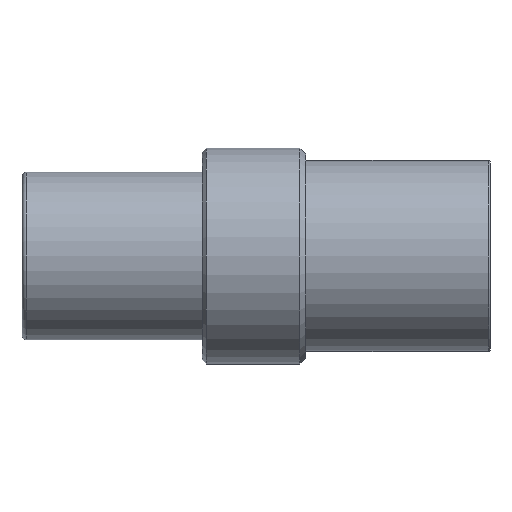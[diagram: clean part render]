
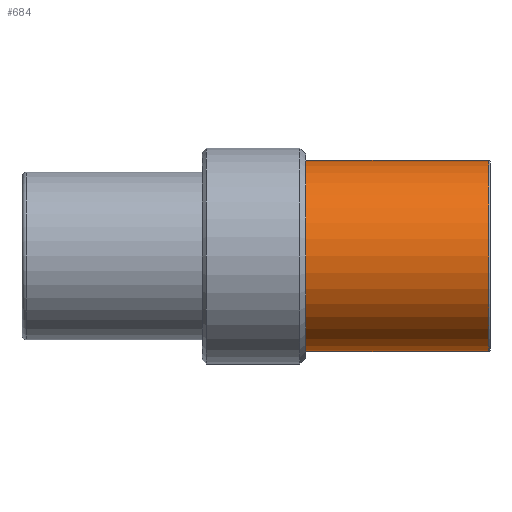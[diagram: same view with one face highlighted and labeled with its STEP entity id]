
A CAD part, left-side view. The second image highlights one B-rep face of the part: STEP entity #684.
In plain terms, the highlighted cylindrical face has radius 8.433 mm (diameter 16.866 mm), a partial arc.
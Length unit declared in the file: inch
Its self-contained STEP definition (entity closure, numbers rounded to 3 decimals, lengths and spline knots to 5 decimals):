
#237 = EDGE_CURVE ( 'NONE', #2804, #2625, #1370, .T. ) ;
#255 = LINE ( 'NONE', #2879, #309 ) ;
#309 = VECTOR ( 'NONE', #470, 39.37008 ) ;
#470 = DIRECTION ( 'NONE',  ( 0., 1., 0. ) ) ;
#576 = EDGE_CURVE ( 'NONE', #1520, #647, #2839, .T. ) ;
#647 = VERTEX_POINT ( 'NONE', #3097 ) ;
#668 = FACE_OUTER_BOUND ( 'NONE', #1848, .T. ) ;
#684 = ADVANCED_FACE ( 'NONE', ( #668 ), #2988, .T. ) ;
#748 = CARTESIAN_POINT ( 'NONE',  ( 0., 0.64, -0.332 ) ) ;
#757 = ORIENTED_EDGE ( 'NONE', *, *, #576, .F. ) ;
#986 = AXIS2_PLACEMENT_3D ( 'NONE', #2885, #2639, #2364 ) ;
#1059 = LINE ( 'NONE', #1864, #2119 ) ;
#1161 = CARTESIAN_POINT ( 'NONE',  ( 0., 0.64, 0.332 ) ) ;
#1218 = CARTESIAN_POINT ( 'NONE',  ( 0., 0.32, 0. ) ) ;
#1326 = AXIS2_PLACEMENT_3D ( 'NONE', #3198, #2105, #2659 ) ;
#1370 = CIRCLE ( 'NONE', #986, 0.332 ) ;
#1438 = ORIENTED_EDGE ( 'NONE', *, *, #2428, .T. ) ;
#1520 = VERTEX_POINT ( 'NONE', #3448 ) ;
#1734 = ORIENTED_EDGE ( 'NONE', *, *, #1869, .F. ) ;
#1740 = DIRECTION ( 'NONE',  ( 0., 1., 0. ) ) ;
#1825 = AXIS2_PLACEMENT_3D ( 'NONE', #1218, #1740, #2797 ) ;
#1848 = EDGE_LOOP ( 'NONE', ( #1734, #757, #1438, #2747 ) ) ;
#1864 = CARTESIAN_POINT ( 'NONE',  ( 0., 0.32, 0.332 ) ) ;
#1869 = EDGE_CURVE ( 'NONE', #647, #2804, #255, .T. ) ;
#2105 = DIRECTION ( 'NONE',  ( 0., -1., 0. ) ) ;
#2119 = VECTOR ( 'NONE', #2937, 39.37008 ) ;
#2364 = DIRECTION ( 'NONE',  ( 1., 0., 0. ) ) ;
#2428 = EDGE_CURVE ( 'NONE', #1520, #2625, #1059, .T. ) ;
#2625 = VERTEX_POINT ( 'NONE', #1161 ) ;
#2639 = DIRECTION ( 'NONE',  ( 0., 1., 0. ) ) ;
#2659 = DIRECTION ( 'NONE',  ( 0., 0., -1. ) ) ;
#2747 = ORIENTED_EDGE ( 'NONE', *, *, #237, .F. ) ;
#2797 = DIRECTION ( 'NONE',  ( 0., 0., 1. ) ) ;
#2804 = VERTEX_POINT ( 'NONE', #748 ) ;
#2839 = CIRCLE ( 'NONE', #1326, 0.332 ) ;
#2879 = CARTESIAN_POINT ( 'NONE',  ( 0., 0.32, -0.332 ) ) ;
#2885 = CARTESIAN_POINT ( 'NONE',  ( 0., 0.64, 0. ) ) ;
#2937 = DIRECTION ( 'NONE',  ( 0., 1., 0. ) ) ;
#2988 = CYLINDRICAL_SURFACE ( 'NONE', #1825, 0.332 ) ;
#3097 = CARTESIAN_POINT ( 'NONE',  ( 0., 0.005, -0.332 ) ) ;
#3198 = CARTESIAN_POINT ( 'NONE',  ( 0., 0.005, 0. ) ) ;
#3448 = CARTESIAN_POINT ( 'NONE',  ( 0., 0.005, 0.332 ) ) ;
